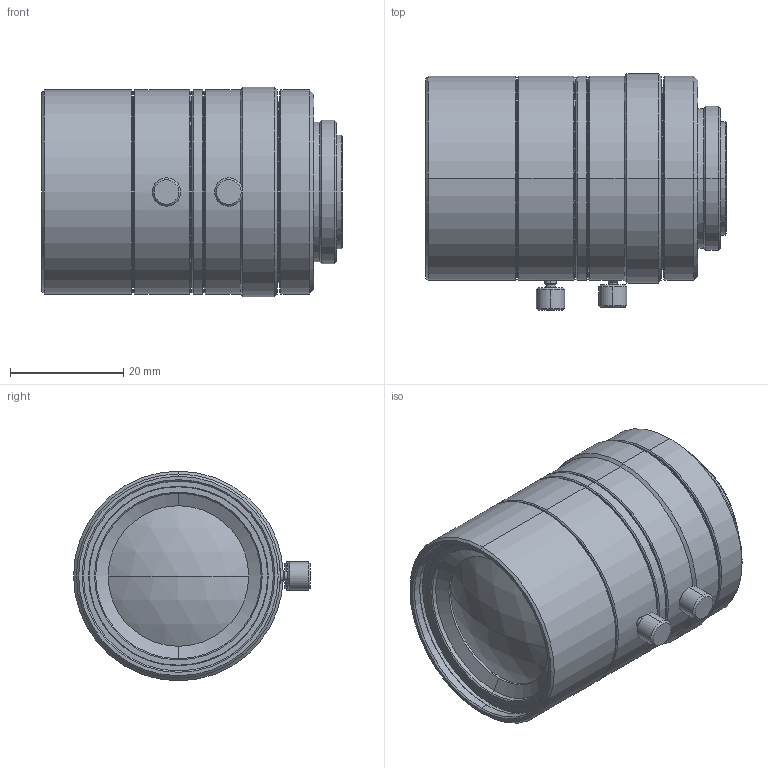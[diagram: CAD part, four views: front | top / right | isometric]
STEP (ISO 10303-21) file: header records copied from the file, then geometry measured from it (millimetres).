
FILE_DESCRIPTION (( 'STEP AP203' ), '1' );
FILE_NAME ('SV-1214HF.STEP', '2016-04-12T06:12:24', ( 'miura_vst' ), ( '' ), 'SwSTEP 2.0', 'SolidWorks 2016', '' );
FILE_SCHEMA (( 'CONFIG_CONTROL_DESIGN' ));
Length unit declared in the file: millimetre
Products named in the file (1): SV-1214HF
Bounding box: 53 x 41.8 x 37 mm (x, y, z)
Volume: 47947.8 mm3; surface area: 10116.8 mm2
Topology: 1 solids, 1 shells, 135 faces, 270 edges, 158 vertices
Faces by surface type: cone 64, cylinder 46, plane 21, sphere 4
Entity records: 3625 total; most frequent: DIRECTION 694, CARTESIAN_POINT 628, ORIENTED_EDGE 540, AXIS2_PLACEMENT_3D 292, EDGE_CURVE 270, VERTEX_POINT 158, EDGE_LOOP 156, CIRCLE 156
